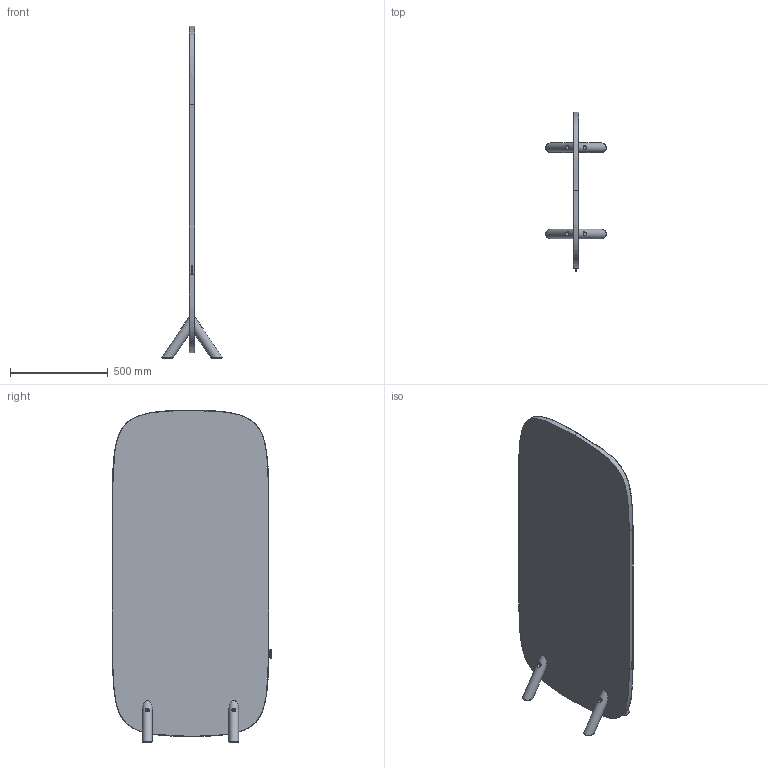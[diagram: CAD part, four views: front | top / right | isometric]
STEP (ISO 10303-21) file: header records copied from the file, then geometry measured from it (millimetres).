
FILE_DESCRIPTION(/* description */ ('','CAx-IF Rec.Pracs.---Representation and Presentation of Product Manufacturing Information (PMI)---4.0---2014-10-13'),/* implementation_level */ '2;1');
FILE_NAME(/* name */ 'SHADE_TIMBER_S_STEP.step',/* time_stamp */ '2025-01-14T15:01:31+01:00',/* author */ (''),/* organization */ (''),/* preprocessor_version */ 'ST-DEVELOPER v20',/* originating_system */ 'Autodesk Translation Framework v13.20.0.188',/* authorisation */ '');
FILE_SCHEMA (('AP242_MANAGED_MODEL_BASED_3D_ENGINEERING_MIM_LF { 1 0 10303 442 1 1 4 }'));
Length unit declared in the file: millimetre
Products named in the file (8): 1.0_S_TIMBER_S; Components; 1.1_S_TIMBER_S; 1.1.3_S_TIMBER_S; Štítek SLB v3; SHADE TIMBER/HEAVY_noha Ø 50MM v12; 1.2_S_TIMBER_S
Assembly tree (13 placements, depth 4):
  1.0_S_TIMBER_S
    Components
      1.1_S_TIMBER_S
        1.1.3_S_TIMBER_S
        Štítek SLB v3
      SHADE TIMBER/HEAVY_noha Ø 50MM v12  x4
      1.2_S_TIMBER_S
            x4
Bounding box: 310.39 x 815 x 1700 mm (x, y, z)
Volume: 4242146.1 mm3; surface area: 5507450.9 mm2
Topology: 30 solids, 30 shells, 466 faces, 1128 edges, 748 vertices
Faces by surface type: plane 226, bspline 184, cylinder 48, cone 8
Full cylindrical faces by diameter (mm): 5.035 x4, 8 x12, 8.3 x8, 9 x4, 9.2 x4, 17 x4, 20 x4, 50 x4
Entity records: 13910 total; most frequent: CARTESIAN_POINT 5064, ORIENTED_EDGE 1968, DIRECTION 1418, EDGE_CURVE 984, VERTEX_POINT 655, LINE 572, VECTOR 572, EDGE_LOOP 429
